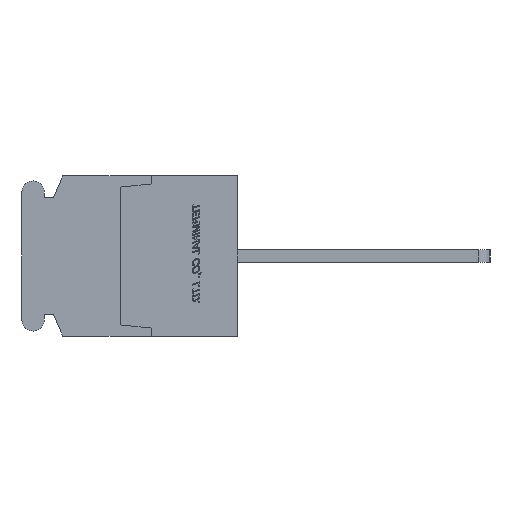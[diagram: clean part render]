
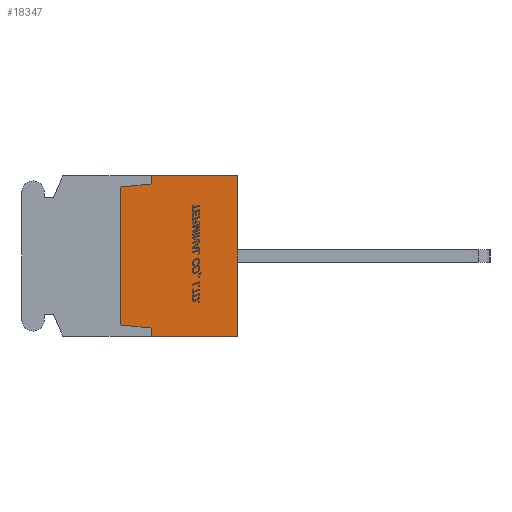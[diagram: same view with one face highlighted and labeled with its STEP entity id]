
A CAD part, left-side view. The second image highlights one B-rep face of the part: STEP entity #18347.
In plain terms, the highlighted planar face has unit normal (-1, 0, 0).
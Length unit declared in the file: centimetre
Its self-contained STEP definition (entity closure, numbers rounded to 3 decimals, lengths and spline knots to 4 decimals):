
#2328=VECTOR('',#22758,1.);
#2329=VECTOR('',#22759,1.);
#2330=VECTOR('',#22760,1.);
#2331=VECTOR('',#22761,1.);
#2332=VECTOR('',#22762,1.);
#2333=VECTOR('',#22763,1.);
#2334=VECTOR('',#22764,1.);
#2335=VECTOR('',#22765,1.);
#4346=LINE('',#28671,#2328);
#4347=LINE('',#28674,#2329);
#4348=LINE('',#28676,#2330);
#4349=LINE('',#28678,#2331);
#4350=LINE('',#28680,#2332);
#4351=LINE('',#28682,#2333);
#4352=LINE('',#28684,#2334);
#4353=LINE('',#28686,#2335);
#6260=VERTEX_POINT('',#28672);
#6261=VERTEX_POINT('',#28673);
#6262=VERTEX_POINT('',#28675);
#6263=VERTEX_POINT('',#28677);
#6264=VERTEX_POINT('',#28679);
#6265=VERTEX_POINT('',#28681);
#6266=VERTEX_POINT('',#28683);
#6267=VERTEX_POINT('',#28685);
#9182=EDGE_CURVE('',#6260,#6261,#4346,.T.);
#9183=EDGE_CURVE('',#6262,#6260,#4347,.T.);
#9184=EDGE_CURVE('',#6263,#6262,#4348,.T.);
#9185=EDGE_CURVE('',#6264,#6263,#4349,.T.);
#9186=EDGE_CURVE('',#6265,#6264,#4350,.T.);
#9187=EDGE_CURVE('',#6266,#6265,#4351,.T.);
#9188=EDGE_CURVE('',#6267,#6266,#4352,.T.);
#9189=EDGE_CURVE('',#6261,#6267,#4353,.T.);
#14010=ORIENTED_EDGE('',*,*,#9182,.F.);
#14011=ORIENTED_EDGE('',*,*,#9183,.F.);
#14012=ORIENTED_EDGE('',*,*,#9184,.F.);
#14013=ORIENTED_EDGE('',*,*,#9185,.F.);
#14014=ORIENTED_EDGE('',*,*,#9186,.F.);
#14015=ORIENTED_EDGE('',*,*,#9187,.F.);
#14016=ORIENTED_EDGE('',*,*,#9188,.F.);
#14017=ORIENTED_EDGE('',*,*,#9189,.F.);
#16143=EDGE_LOOP('',(#14010,#14011,#14012,#14013,#14014,#14015,#14016,#14017));
#17295=FACE_BOUND('',#16143,.T.);
#18347=ADVANCED_FACE('',(#17295),#19175,.F.);
#19175=PLANE('',#31473);
#22757=DIRECTION('',(1.,0.,0.));
#22758=DIRECTION('',(0.,0.,-1.));
#22759=DIRECTION('',(0.,-1.,0.));
#22760=DIRECTION('',(0.,0.,1.));
#22761=DIRECTION('',(0.,-0.995,0.1));
#22762=DIRECTION('',(0.,0.,1.));
#22763=DIRECTION('',(0.,0.995,0.1));
#22764=DIRECTION('',(0.,0.,1.));
#22765=DIRECTION('',(0.,1.,0.));
#28670=CARTESIAN_POINT('',(-1.07,0.4626,0.));
#28671=CARTESIAN_POINT('',(-1.07,0.,0.65));
#28672=CARTESIAN_POINT('',(-1.07,0.,0.65));
#28673=CARTESIAN_POINT('',(-1.07,0.,-0.65));
#28674=CARTESIAN_POINT('',(-1.07,0.7,0.65));
#28675=CARTESIAN_POINT('',(-1.07,0.7,0.65));
#28676=CARTESIAN_POINT('',(-1.07,0.7,0.585));
#28677=CARTESIAN_POINT('',(-1.07,0.7,0.585));
#28678=CARTESIAN_POINT('',(-1.07,0.95,0.56));
#28679=CARTESIAN_POINT('',(-1.07,0.95,0.56));
#28680=CARTESIAN_POINT('',(-1.07,0.95,-0.56));
#28681=CARTESIAN_POINT('',(-1.07,0.95,-0.56));
#28682=CARTESIAN_POINT('',(-1.07,0.7,-0.585));
#28683=CARTESIAN_POINT('',(-1.07,0.7,-0.585));
#28684=CARTESIAN_POINT('',(-1.07,0.7,-0.65));
#28685=CARTESIAN_POINT('',(-1.07,0.7,-0.65));
#28686=CARTESIAN_POINT('',(-1.07,0.,-0.65));
#31473=AXIS2_PLACEMENT_3D('',#28670,#22757,$);
